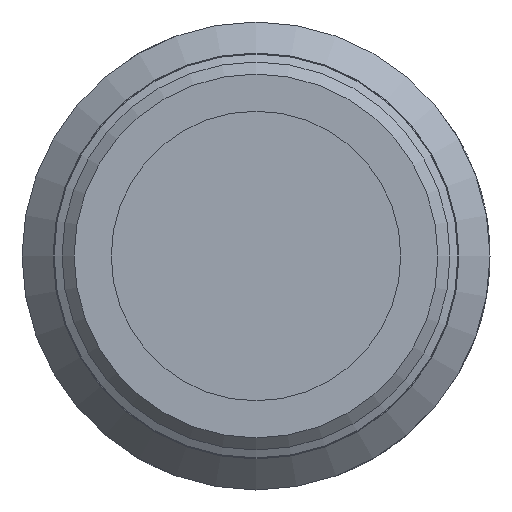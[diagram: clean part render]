
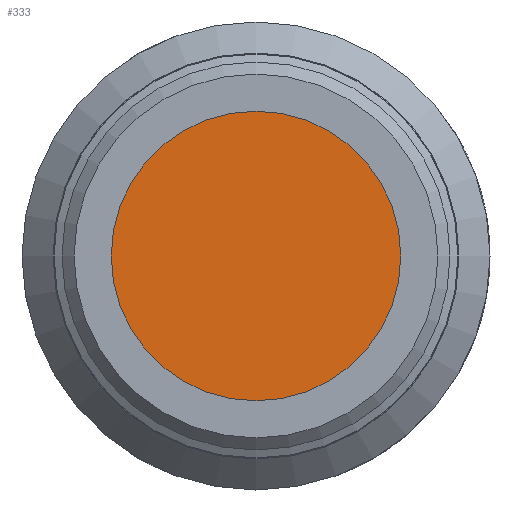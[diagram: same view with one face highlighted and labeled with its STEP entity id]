
A CAD part, left-side view. The second image highlights one B-rep face of the part: STEP entity #333.
In plain terms, the highlighted planar face has unit normal (-1, 0, 0).
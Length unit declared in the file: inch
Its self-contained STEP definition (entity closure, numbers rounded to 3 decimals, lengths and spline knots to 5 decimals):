
#333 = ADVANCED_FACE( '', ( #959 ), #960, .T. );
#959 = FACE_OUTER_BOUND( '', #2119, .T. );
#960 = PLANE( '', #2120 );
#2119 = EDGE_LOOP( '', ( #4723 ) );
#2120 = AXIS2_PLACEMENT_3D( '', #4724, #4725, #4726 );
#4723 = ORIENTED_EDGE( '', *, *, #7053, .T. );
#4724 = CARTESIAN_POINT( '', ( 0.25, 0., 1.2375 ) );
#4725 = DIRECTION( '', ( -1., 0., 0. ) );
#4726 = DIRECTION( '', ( 0., 0., 1. ) );
#7053 = EDGE_CURVE( '', #8011, #8011, #8012, .T. );
#8011 = VERTEX_POINT( '', #9526 );
#8012 = CIRCLE( '', #9527, 1.2375 );
#9526 = CARTESIAN_POINT( '', ( 0.25, 0., 1.2375 ) );
#9527 = AXIS2_PLACEMENT_3D( '', #12738, #12739, #12740 );
#12738 = CARTESIAN_POINT( '', ( 0.25, 0., 0. ) );
#12739 = DIRECTION( '', ( -1., 0., 0. ) );
#12740 = DIRECTION( '', ( 0., 0., 1. ) );
